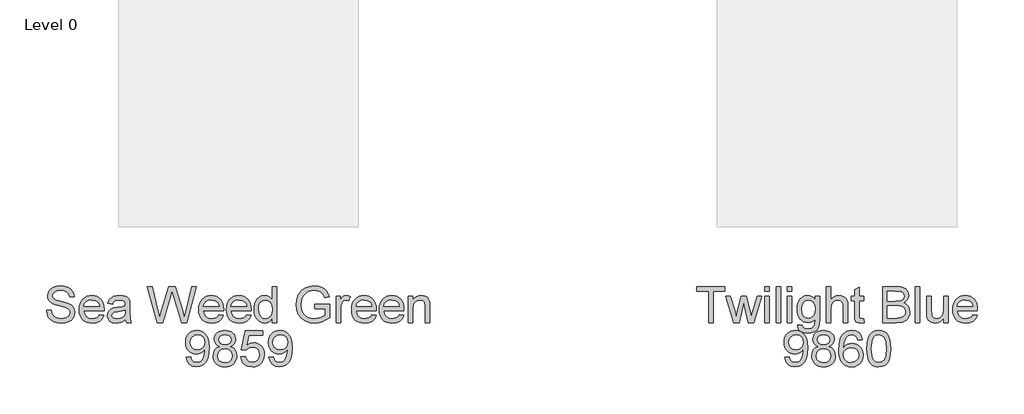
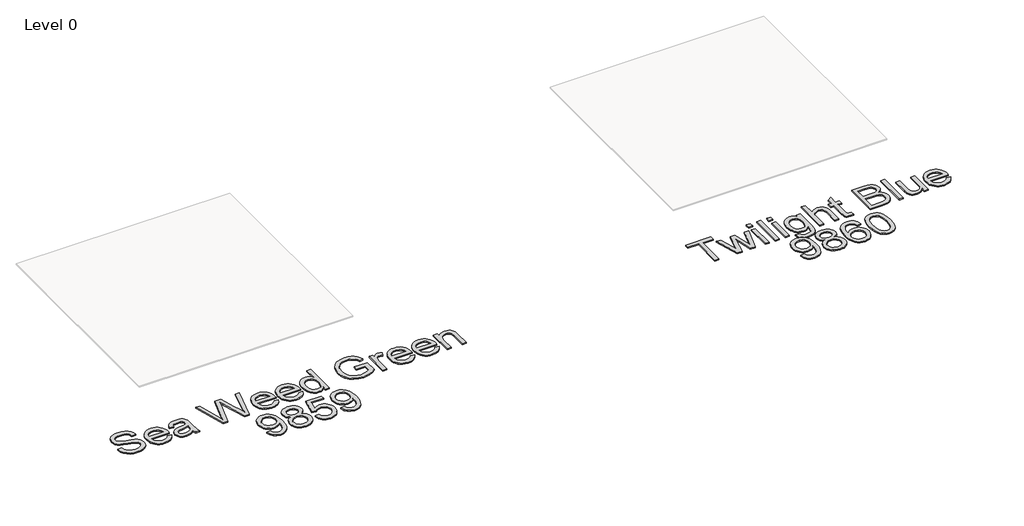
# One storey, part 5 of 8: 2 proxies.
"""IFC4 building model written with IfcOpenShell, lengths in millimetres."""

from ifc_helpers import new_model, si_unit, origin, origin_with_axes, place, context, project, spatial, polyline, outline, extrude, element, save

model = new_model("IFC4")

# Units and contexts
model_context = context("Model", 3, world=origin())
ifc_project = project(units=[si_unit("LENGTHUNIT", "METRE", prefix="MILLI")], contexts=[model_context])

# Site, building, storey
site = spatial("IfcSite", under=ifc_project)
building = spatial("IfcBuilding", under=site)
storey = spatial("IfcBuildingStorey", under=building, Name="Level 0", Elevation=0.0)

# Proxies
placement = place(None, origin())
element("IfcBuildingElementProxy", 1, Name="300mm Arial", ObjectType="300mm Arial", at=placement, inside=storey, context=model_context, shape_type="SweptSolid", body=[
    extrude(outline(polyline([(9475.715129, -12002.860494), (9475.715129, -11739.1626798), (9376.8284487, -11739.1626798), (9376.8284487, -11701.4915635), (9612.2729256, -11701.4915635), (9612.2729256, -11739.1626798), (9513.3862453, -11739.1626798), (9513.3862453, -12002.860494), (9475.715129, -12002.860494)])), origin_with_axes(), (0.0, 0.0, 1.0), 10.0),
    extrude(outline(polyline([(9686.658665, -12002.860494), (9619.3362599, -11781.5426857), (9658.4789042, -11781.5426857), (9696.6650553, -11910.669266), (9708.0693971, -11956.8016682), (9717.4135998, -11912.3615232), (9747.8006526, -11781.5426857), (9792.682256, -11781.5426857), (9822.922156, -11911.9936412), (9831.2362891, -11952.2399314), (9843.1556658, -11909.7863492), (9881.4153932, -11781.5426857), (9920.7051903, -11781.5426857), (9852.8677504, -12002.860494), (9807.3239594, -12002.860494), (9778.4084346, -11873.0717261), (9770.0207251, -11832.6047066), (9732.7174908, -12002.860494), (9686.658665, -12002.860494)])), origin_with_axes(), (0.0, 0.0, 1.0), 10.0),
    extrude(outline(polyline([(9946.6040828, -11739.1626798), (9946.6040828, -11701.4915635), (9984.2751991, -11701.4915635), (9984.2751991, -11739.1626798), (9946.6040828, -11739.1626798)])), origin_with_axes(), (0.0, 0.0, 1.0), 10.0),
    extrude(outline(polyline([(9946.6040828, -12002.860494), (9946.6040828, -11781.5426857), (9984.2751991, -11781.5426857), (9984.2751991, -12002.860494), (9946.6040828, -12002.860494)])), origin_with_axes(), (0.0, 0.0, 1.0), 10.0),
    extrude(outline(polyline([(10040.7818736, -12002.860494), (10040.7818736, -11701.4915635), (10078.4529899, -11701.4915635), (10078.4529899, -12002.860494), (10040.7818736, -12002.860494)])), origin_with_axes(), (0.0, 0.0, 1.0), 10.0),
    extrude(outline(polyline([(10134.9596643, -11739.1626798), (10134.9596643, -11701.4915635), (10172.6307806, -11701.4915635), (10172.6307806, -11739.1626798), (10134.9596643, -11739.1626798)])), origin_with_axes(), (0.0, 0.0, 1.0), 10.0),
    extrude(outline(polyline([(10134.9596643, -12002.860494), (10134.9596643, -11781.5426857), (10172.6307806, -11781.5426857), (10172.6307806, -12002.860494), (10134.9596643, -12002.860494)])), origin_with_axes(), (0.0, 0.0, 1.0), 10.0),
    extrude(outline(polyline([(10219.719676, -12021.6960521), (10257.3907923, -12026.4049417), (10261.5478589, -12038.1771655), (10269.6044746, -12046.2705694), (10285.4417945, -12052.5613515), (10306.1719449, -12054.6582789), (10328.2816528, -12052.28544), (10344.725978, -12045.1669234), (10356.1303198, -12033.7625816), (10363.1200777, -12018.532267), (10365.6952517, -11974.6071568), (10353.1596727, -11986.9679918), (10339.1709598, -11995.7971597), (10323.7291131, -12001.0946604), (10306.8341325, -12002.860494), (10286.1798577, -12000.8049533), (10267.9949908, -11994.6383314), (10252.2795318, -11984.3606281), (10239.0334808, -11969.9718436), (10228.523552, -11952.708981), (10221.01646, -11933.8090435), (10216.5122049, -11913.2720311), (10215.0107865, -11891.0979438), (10217.7055221, -11860.6832999), (10225.7897289, -11832.7150712), (10238.9782985, -11809.0142737), (10256.9861221, -11791.4019232), (10279.1969976, -11780.4758279), (10304.9947225, -11776.8337961), (10322.6116715, -11778.8939353), (10338.6007428, -11785.0743528), (10352.9619361, -11795.3750487), (10365.6952517, -11809.7960229), (10365.6952517, -11781.5426857), (10403.366368, -11781.5426857), (10403.366368, -11972.620594), (10400.791194, -12016.7388422), (10393.0656721, -12045.7923228), (10379.757541, -12065.0601423), (10360.4345392, -12079.8214074), (10335.519731, -12089.2023982), (10305.4361809, -12092.3293952), (10270.3862238, -12087.9240083), (10242.7858771, -12074.7078476), (10232.3909115, -12064.7865301), (10225.0815561, -12052.644125), (10220.8578109, -12038.2806323), (10219.719676, -12021.6960521)]), holes=[polyline([(10252.6819028, -11888.5227699), (10256.7010136, -11923.0760863), (10268.758346, -11946.8320661), (10286.8857313, -11960.6000498), (10309.1150008, -11965.1893777), (10331.1787235, -11960.6276409), (10349.3980793, -11946.9424307), (10361.6209586, -11923.4899535), (10365.6952517, -11889.6264159), (10361.501397, -11856.9676917), (10348.9198327, -11833.4508352), (10330.4337625, -11819.2413931), (10308.5263896, -11814.5049125), (10287.01449, -11819.1678167), (10268.9790752, -11833.1565296), (10256.7561959, -11856.3238983), (10252.6819028, -11888.5227699)])]), origin_with_axes(), (0.0, 0.0, 1.0), 10.0),
    extrude(outline(polyline([(10459.8730425, -12002.860494), (10459.8730425, -11701.4915635), (10497.5441588, -11701.4915635), (10497.5441588, -11812.2976205), (10511.3811203, -11796.7821973), (10526.9195361, -11785.6997522), (10544.1594061, -11779.0502852), (10563.1007303, -11776.8337961), (10585.8542317, -11779.2526203), (10605.4071598, -11786.5090926), (10620.8030213, -11798.0329961), (10631.085323, -11813.2541137), (10636.8794644, -11834.1682051), (10638.8108449, -11862.7710302), (10638.8108449, -12002.860494), (10601.1397286, -12002.860494), (10601.1397286, -11866.6705794), (10598.1414904, -11843.0893435), (10589.1467756, -11826.9393239), (10574.652225, -11817.6135153), (10555.1544792, -11814.5049125), (10539.2343859, -11816.6018398), (10524.2891798, -11822.8926219), (10511.9099507, -11832.7702535), (10503.6877881, -11845.6277292), (10499.0800661, -11862.7158479), (10497.5441588, -11885.2854083), (10497.5441588, -12002.860494), (10459.8730425, -12002.860494)])), origin_with_axes(), (0.0, 0.0, 1.0), 10.0),
    extrude(outline(polyline([(10770.659752, -11971.4433716), (10775.3686415, -12003.96414), (10747.1888807, -12007.5693835), (10729.1074806, -12006.005885), (10715.6246055, -12001.3153896), (10706.0964618, -11994.0865084), (10699.8792561, -11984.9078526), (10696.4579536, -11969.1441091), (10695.3175194, -11942.1599648), (10695.3175194, -11819.213802), (10667.0641821, -11819.213802), (10667.0641821, -11781.5426857), (10695.3175194, -11781.5426857), (10695.3175194, -11727.758338), (10732.9886357, -11705.6118419), (10732.9886357, -11781.5426857), (10770.659752, -11781.5426857), (10770.659752, -11819.213802), (10732.9886357, -11819.213802), (10732.9886357, -11941.0563188), (10734.9751985, -11960.4804881), (10741.4131334, -11967.3598814), (10754.252215, -11969.8982672), (10770.659752, -11971.4433716)])), origin_with_axes(), (0.0, 0.0, 1.0), 10.0),
    extrude(outline(polyline([(10930.7619963, -12002.860494), (10930.7619963, -11701.4915635), (11045.761908, -11701.4915635), (11077.3905625, -11703.7080526), (11102.0846414, -11710.3575196), (11121.0121701, -11721.6055116), (11135.3411738, -11737.6175755), (11144.3634797, -11756.4531336), (11147.3709151, -11776.1716086), (11144.8417263, -11794.317388), (11137.2541602, -11811.3779155), (11124.5530343, -11826.3047274), (11106.6831664, -11838.0493601), (11128.0295192, -11849.1961846), (11143.8024597, -11866.1555446), (11153.5421355, -11887.8054), (11156.7886941, -11913.0237108), (11154.5722051, -11934.0389697), (11147.922738, -11953.5275184), (11137.9991212, -11970.1006023), (11125.9601829, -11982.3694669), (11111.217312, -11991.253817), (11093.1818972, -11997.6733578), (11044.8789912, -12002.860494), (10930.7619963, -12002.860494)]), holes=[polyline([(10968.4331126, -11965.1893777), (11045.6883316, -11965.1893777), (11073.6473632, -11963.7178497), (11097.3021755, -11955.5140812), (11112.9739485, -11938.7754504), (11117.5816705, -11926.9480443), (11119.1175778, -11913.3915928), (11117.314956, -11897.6462434), (11111.9070907, -11884.1081859), (11102.4617205, -11873.5223815), (11088.546584, -11866.6337912), (11068.8373061, -11862.8538037), (11042.0095116, -11861.5938078), (10968.4331126, -11861.5938078), (10968.4331126, -11965.1893777)]), polyline([(10968.4331126, -11823.9226915), (11037.2270457, -11823.9226915), (11077.3997596, -11820.68533), (11091.4620488, -11815.1027207), (11101.5696067, -11806.7426024), (11107.6672507, -11795.7337336), (11109.6997987, -11782.2048733), (11107.8052065, -11769.071486), (11102.1214296, -11757.630356), (11092.9059857, -11748.7000206), (11080.4163919, -11743.0990172), (11032.0031214, -11739.1626798), (10968.4331126, -11739.1626798), (10968.4331126, -11823.9226915)])]), origin_with_axes(), (0.0, 0.0, 1.0), 10.0),
    extrude(outline(polyline([(11203.8775895, -12002.860494), (11203.8775895, -11701.4915635), (11241.5487058, -11701.4915635), (11241.5487058, -12002.860494), (11203.8775895, -12002.860494)])), origin_with_axes(), (0.0, 0.0, 1.0), 10.0),
    extrude(outline(polyline([(11439.3220664, -12002.860494), (11439.3220664, -11964.8214957), (11425.6920385, -11983.5236966), (11409.8179304, -11996.8824116), (11391.6997421, -12004.8976405), (11371.3374737, -12007.5693835), (11352.9893592, -12005.6931853), (11335.9104376, -12000.0645908), (11321.5814339, -11991.6033049), (11311.4830731, -11981.2290327), (11300.2626722, -11953.4907302), (11298.0553803, -11918.4683643), (11298.0553803, -11781.5426857), (11335.7264966, -11781.5426857), (11335.7264966, -11900.7364521), (11338.007365, -11939.1433324), (11343.4980037, -11951.9548229), (11352.9065858, -11961.6944987), (11365.6077116, -11967.8473251), (11380.975982, -11969.8982672), (11397.2271691, -11967.8013398), (11412.4298926, -11961.5105577), (11424.9654716, -11951.605335), (11433.2152253, -11938.6650858), (11437.7953561, -11920.9423707), (11439.3220664, -11896.6897502), (11439.3220664, -11781.5426857), (11476.9931827, -11781.5426857), (11476.9931827, -12002.860494), (11439.3220664, -12002.860494)])), origin_with_axes(), (0.0, 0.0, 1.0), 10.0),
    extrude(outline(polyline([(11683.742864, -11936.9360404), (11720.6782163, -11941.64493), (11707.3700852, -11969.4752029), (11686.134097, -11990.2789297), (11657.4484984, -12003.2467701), (11621.791536, -12007.5693835), (11598.4172338, -12005.7046817), (11577.5905143, -12000.1105761), (11559.3113777, -11990.7870668), (11543.5798239, -11977.7341537), (11530.9292817, -11961.3151204), (11521.8931802, -11941.8932503), (11516.4715193, -11919.4685435), (11514.664299, -11894.0409998), (11516.4899134, -11867.7512327), (11521.9667566, -11844.5792656), (11531.0948286, -11824.5250983), (11543.8741295, -11807.5887309), (11559.5642965, -11794.133447), (11577.4249674, -11784.5225298), (11597.4561421, -11778.7559796), (11619.6578205, -11776.8337961), (11641.1444282, -11778.751381), (11660.5754954, -11784.5041357), (11677.9510219, -11794.0920602), (11693.2710077, -11807.5151545), (11705.7766963, -11824.4147337), (11714.709331, -11844.4321128), (11720.0689118, -11867.5672917), (11721.8554387, -11893.8202706), (11721.6347095, -11903.9738137), (11552.3354153, -11903.9738137), (11558.8561237, -11932.1719686), (11574.0036649, -11952.902119), (11595.8650524, -11965.6492302), (11622.5273, -11969.8982672), (11642.5768688, -11967.9300985), (11659.4626523, -11962.0255925), (11673.1846508, -11951.8168672), (11683.742864, -11936.9360404)]), holes=[polyline([(11552.3354153, -11866.3026974), (11684.1843224, -11866.3026974), (11679.0891568, -11846.4002814), (11669.1011606, -11832.1632482), (11647.1386055, -11818.9194964), (11619.5106677, -11814.5049125), (11594.1176129, -11818.0273826), (11573.1207481, -11828.5947929), (11558.5250299, -11845.0667092), (11552.3354153, -11866.3026974)])]), origin_with_axes(), (0.0, 0.0, 1.0), 10.0),
    extrude(outline(polyline([(10111.4152166, -12293.4427149), (10149.0863329, -12288.7338254), (10155.5242679, -12310.1169663), (10166.0089047, -12324.6758963), (10180.2827261, -12333.0360146), (10198.0882147, -12335.8227207), (10214.0634903, -12334.029296), (10228.5856321, -12328.6490218), (10240.6521615, -12320.2705094), (10249.2606002, -12309.4823699), (10261.5846471, -12276.7408723), (10267.0293006, -12233.0364913), (10266.8085714, -12225.6788514), (10253.7579576, -12241.6081418), (10236.679036, -12254.2264942), (10216.8042112, -12262.4486568), (10195.3658879, -12265.1893777), (10177.4707281, -12263.5155146), (10161.0149066, -12258.4939254), (10145.9984234, -12250.12461), (10132.4212786, -12238.4075684), (10121.1709873, -12223.9544045), (10113.135065, -12207.3767221), (10108.3135116, -12188.6745212), (10106.7063271, -12167.8478018), (10108.3916865, -12146.326705), (10113.4477647, -12127.0129003), (10121.8745616, -12109.9063875), (10133.6720773, -12095.0071667), (10148.0079788, -12082.9360387), (10164.0499331, -12074.3138045), (10181.7979401, -12069.1404639), (10201.2519999, -12067.4160171), (10229.3489872, -12071.3523544), (10254.925983, -12083.1613665), (10276.318321, -12102.254442), (10291.8613353, -12128.0429699), (10301.3250996, -12163.6907352), (10304.4796877, -12212.3615232), (10301.3342966, -12263.96617), (10291.8981235, -12303.8537754), (10276.2539416, -12333.8269609), (10254.4845246, -12355.6883485), (10227.5279714, -12369.0424649), (10196.3223811, -12373.4938371), (10164.1143124, -12368.2423216), (10138.4177551, -12352.4877751), (10120.4467196, -12327.2234791), (10111.4152166, -12293.4427149)]), holes=[polyline([(10266.8085714, -12166.964885), (10262.7434754, -12141.4338745), (10250.5481872, -12121.788976), (10231.6206586, -12109.262594), (10207.358841, -12105.0871334), (10182.1957125, -12109.5844908), (10162.0357792, -12123.0765629), (10148.7920273, -12143.7239399), (10144.3774434, -12169.6872117), (10148.552904, -12192.964945), (10161.079286, -12211.4418182), (10180.7425786, -12223.4991506), (10206.3287714, -12227.5182614), (10230.3974509, -12223.4991506), (10249.775635, -12211.4418182), (10262.5503373, -12192.2843633), (10266.8085714, -12166.964885)])]), origin_with_axes(), (0.0, 0.0, 1.0), 10.0),
    extrude(outline(polyline([(10392.3299082, -12202.7965913), (10372.1607778, -12192.8637774), (10358.006518, -12179.3992964), (10349.6463997, -12162.6790597), (10346.8596935, -12142.9789789), (10348.3772068, -12127.6153071), (10352.9297465, -12113.5300252), (10360.5173126, -12100.7231332), (10371.1399052, -12089.1946312), (10384.287088, -12079.6664875), (10399.4484248, -12072.8606706), (10435.81356, -12067.4160171), (10472.3994244, -12072.9894293), (10487.726308, -12079.9561946), (10501.0758259, -12089.709666), (10511.8915566, -12101.4634957), (10519.6170785, -12114.4313361), (10524.2523916, -12128.613187), (10525.797496, -12144.0090485), (10523.0475781, -12163.0745329), (10514.7978243, -12179.509661), (10500.9562643, -12192.8913686), (10481.4309274, -12202.7965913), (10504.6166901, -12214.7435591), (10521.4932767, -12232.3375155), (10531.7847755, -12254.732332), (10535.2152751, -12281.0818799), (10533.5138209, -12299.8714528), (10528.4094582, -12317.0975272), (10519.902187, -12332.7601031), (10507.9920074, -12346.8591806), (10493.3043188, -12358.5118428), (10476.4645204, -12366.8351729), (10457.4726124, -12371.829171), (10436.3285948, -12373.4938371), (10415.1845771, -12371.8222732), (10396.1926691, -12366.8075818), (10379.3528708, -12358.4497627), (10364.6651821, -12346.748816), (10352.7550025, -12332.5508703), (10344.2477314, -12316.7020541), (10339.1433687, -12299.2023674), (10337.4419145, -12280.0518103), (10341.0103698, -12252.6813898), (10351.7157359, -12230.1670117), (10369.0061897, -12213.2812282), (10392.3299082, -12202.7965913)]), holes=[polyline([(10375.1130308, -12278.7274351), (10381.4038129, -12307.0911369), (10390.1134191, -12319.2588339), (10403.6606736, -12328.317928), (10419.8842696, -12333.9465226), (10436.6229004, -12335.8227207), (10462.2642754, -12331.8771864), (10481.5045038, -12320.0405832), (10493.534245, -12302.1155329), (10497.5441588, -12279.9046575), (10493.4054863, -12257.316703), (10480.989469, -12238.9961796), (10461.3077822, -12226.8560738), (10435.3721016, -12222.8093718), (10410.0894115, -12226.8008915), (10391.0423212, -12238.7754504), (10379.0953534, -12256.7464859), (10375.1130308, -12278.7274351)]), polyline([(10384.5308099, -12144.0826249), (10387.869339, -12160.52695), (10397.8849263, -12173.6603373), (10414.2832662, -12182.268776), (10436.7700532, -12185.1382555), (10458.7326083, -12182.2871701), (10474.8826279, -12173.7339137), (10484.8154417, -12161.0419848), (10488.1263797, -12145.774882), (10484.7050771, -12129.9283651), (10474.4411695, -12116.822569), (10458.0704207, -12108.0209923), (10436.3285948, -12105.0871334), (10414.4488131, -12107.9566129), (10398.1056555, -12116.5650516), (10387.9245213, -12129.1834041), (10384.5308099, -12144.0826249)])]), origin_with_axes(), (0.0, 0.0, 1.0), 10.0),
    extrude(outline(polyline([(10761.2419729, -12147.4671392), (10723.5708566, -12152.1760288), (10717.5008037, -12133.5060175), (10709.2970352, -12120.7589064), (10692.2089165, -12109.0050766), (10671.5523425, -12105.0871334), (10654.0411595, -12107.3680017), (10637.5600461, -12114.2106069), (10623.4057864, -12128.622384), (10611.8450947, -12148.4604206), (10604.0367993, -12176.5206198), (10601.1397286, -12215.5988847), (10616.2504816, -12197.9681401), (10634.3594728, -12185.5429257), (10654.4550268, -12178.1760888), (10675.525468, -12175.7204764), (10693.6252622, -12177.3989381), (10710.3271048, -12182.4343229), (10725.6309958, -12190.8266309), (10739.5369352, -12202.5758621), (10751.0930284, -12216.9830407), (10759.3473806, -12233.349191), (10764.299992, -12251.6743129), (10765.9508625, -12271.9584064), (10762.8422596, -12298.9333537), (10753.516451, -12323.9401323), (10738.7459889, -12345.1485293), (10719.3034255, -12360.7283318), (10696.0716775, -12370.3024607), (10669.9336617, -12373.4938371), (10647.4767652, -12371.3785156), (10627.1949709, -12365.0325512), (10609.088279, -12354.4559438), (10593.1566893, -12339.6486935), (10580.1681556, -12319.9854009), (10570.8906316, -12294.8406665), (10565.3241171, -12264.2144904), (10563.4686123, -12228.1068726), (10565.5287515, -12187.6260575), (10571.709169, -12153.0773396), (10582.0098649, -12124.4607189), (10596.4308391, -12101.7761954), (10612.0612253, -12086.7436174), (10630.1840121, -12076.0060617), (10650.7991994, -12069.5635282), (10673.9067873, -12067.4160171), (10706.9609845, -12072.7319119), (10733.4300941, -12088.6795964), (10751.9713466, -12114.0082718), (10761.2419729, -12147.4671392)]), holes=[polyline([(10601.1397286, -12271.3697952), (10603.3194294, -12288.0624407), (10609.8585319, -12304.0009282), (10620.012075, -12317.7045325), (10633.0350976, -12327.6925287), (10648.7528558, -12333.7901727), (10666.9906058, -12335.8227207), (10691.8502316, -12331.6104719), (10711.3939626, -12318.9737254), (10724.0583003, -12299.1080976), (10728.2797461, -12273.2092052), (10724.1134826, -12248.3495793), (10711.6146918, -12229.3944595), (10691.739867, -12217.3923095), (10665.4455014, -12213.3915928), (10640.6226637, -12217.3923095), (10619.8649222, -12229.3944595), (10605.821027, -12247.8897269), (10601.1397286, -12271.3697952)])]), origin_with_axes(), (0.0, 0.0, 1.0), 10.0),
    extrude(outline(polyline([(10798.9130892, -12220.5285035), (10801.6814012, -12172.2899768), (10809.9863373, -12133.8187172), (10823.7451239, -12104.5261133), (10842.8749876, -12083.8235541), (10867.5138843, -12071.5179013), (10897.7997695, -12067.4160171), (10921.0131234, -12069.8440382), (10941.7984561, -12077.1281017), (10959.1808804, -12088.983099), (10972.1855089, -12105.1239216), (10982.0079582, -12125.4126136), (10989.8438447, -12149.7112194), (10994.9757986, -12180.5673217), (10996.6864498, -12220.5285035), (10993.945729, -12268.4911186), (10985.7235664, -12306.8704077), (10972.0475532, -12336.1906027), (10952.9452806, -12356.9759355), (10928.2512017, -12369.3643617), (10897.7997695, -12373.4938371), (10877.051225, -12371.7004123), (10858.6571252, -12366.3201381), (10842.6174702, -12357.3530145), (10828.93226, -12344.7990414), (10815.7988728, -12322.1053209), (10806.4178819, -12293.828991), (10800.7892874, -12259.9700519), (10798.9130892, -12220.5285035)]), holes=[polyline([(10836.5842055, -12220.4549271), (10840.9987895, -12279.7115194), (10846.5170194, -12299.9795181), (10854.2425413, -12314.0073184), (10873.9610162, -12330.3688702), (10897.7997695, -12335.8227207), (10921.6385228, -12330.3504761), (10941.3569978, -12313.933742), (10949.0825197, -12299.8829491), (10954.6007496, -12279.6195489), (10959.0153335, -12220.4549271), (10954.7479024, -12162.5319069), (10949.4136134, -12142.3305869), (10941.9456089, -12127.9693935), (10922.2639222, -12110.8076984), (10897.3583111, -12105.0871334), (10873.7770752, -12110.1271167), (10854.8311525, -12125.2470667), (10846.8481132, -12140.8820515), (10841.1459423, -12161.9616898), (10836.5842055, -12220.4549271)])]), origin_with_axes(), (0.0, 0.0, 1.0), 10.0),
])
element("IfcBuildingElementProxy", 2, Name="300mm Arial", ObjectType="300mm Arial", at=placement, inside=storey, context=model_context, shape_type="SweptSolid", body=[
    extrude(outline(polyline([(3945.9650559, -11899.2649241), (3983.6361722, -11899.2649241), (3987.9587857, -11920.1698185), (3995.7762781, -11936.9728286), (4007.9715662, -11950.308551), (4025.4275669, -11960.8115819), (4046.7647226, -11967.6265959), (4070.6034759, -11969.8982672), (4091.5911437, -11968.1784189), (4109.9668494, -11963.0188739), (4124.8568731, -11954.8518936), (4135.3874952, -11944.1097394), (4141.6506862, -11931.7764955), (4143.7384165, -11918.8362463), (4142.174918, -11906.2270909), (4137.4844226, -11895.3285868), (4127.9562789, -11886.0303694), (4111.8798357, -11878.222074), (4057.0286303, -11863.837888), (4021.02218, -11854.3189414), (3997.98357, -11845.2598472), (3979.2307853, -11832.5863125), (3965.9410483, -11817.2272392), (3958.0223883, -11799.5137211), (3955.382835, -11779.7768521), (3958.6477877, -11757.7131294), (3968.4426458, -11737.1393289), (3984.509892, -11719.7017223), (4006.5920087, -11707.0465817), (4033.0979065, -11699.3486509), (4062.4364956, -11696.782674), (4094.2215, -11699.4682126), (4122.0333788, -11707.5248283), (4144.8788507, -11720.7869742), (4161.7646343, -11739.0891034), (4172.4516062, -11761.2907818), (4176.7006433, -11786.2515752), (4139.029527, -11786.2515752), (4132.1133455, -11763.7739853), (4117.6923713, -11747.5503893), (4095.1595991, -11737.7279401), (4063.9080236, -11734.4537903), (4031.9206841, -11737.6911519), (4009.9765231, -11747.4032365), (3997.2845942, -11761.695452), (3993.0539513, -11778.6732061), (3996.0521896, -11793.1493626), (4005.0469043, -11804.7928278), (4026.3104837, -11815.2038882), (4066.5567739, -11825.8356779), (4108.0906512, -11835.9340387), (4133.2169915, -11844.7448125), (4154.6921029, -11858.4116286), (4169.6740972, -11875.2790181), (4178.4756739, -11895.1630399), (4181.4095328, -11917.8797531), (4178.0342155, -11941.102304), (4167.9082636, -11962.9452975), (4151.4455443, -11981.7440675), (4129.0599249, -11995.8339479), (4102.1401599, -12004.6355246), (4072.0750039, -12007.5693835), (4035.1672427, -12004.4055984), (4004.7893869, -11994.9142429), (3980.5919487, -11979.0585289), (3962.2254401, -11956.8016682), (3950.4348222, -11929.6887651), (3945.9650559, -11899.2649241)])), origin_with_axes(), (0.0, 0.0, 1.0), 10.0),
    extrude(outline(polyline([(4388.1592141, -11936.9360404), (4425.0945664, -11941.64493), (4411.7864353, -11969.4752029), (4390.5504471, -11990.2789297), (4361.8648485, -12003.2467701), (4326.2078861, -12007.5693835), (4302.8335839, -12005.7046817), (4282.0068644, -12000.1105761), (4263.7277278, -11990.7870668), (4247.996174, -11977.7341537), (4235.3456318, -11961.3151204), (4226.3095303, -11941.8932503), (4220.8878694, -11919.4685435), (4219.0806491, -11894.0409998), (4220.9062635, -11867.7512327), (4226.3831067, -11844.5792656), (4235.5111787, -11824.5250983), (4248.2904796, -11807.5887309), (4263.9806466, -11794.133447), (4281.8413175, -11784.5225298), (4301.8724921, -11778.7559796), (4324.0741706, -11776.8337961), (4345.5607783, -11778.751381), (4364.9918455, -11784.5041357), (4382.367372, -11794.0920602), (4397.6873578, -11807.5151545), (4410.1930464, -11824.4147337), (4419.1256811, -11844.4321128), (4424.4852619, -11867.5672917), (4426.2717888, -11893.8202706), (4426.0510596, -11903.9738137), (4256.7517654, -11903.9738137), (4263.2724738, -11932.1719686), (4278.420015, -11952.902119), (4300.2814025, -11965.6492302), (4326.9436501, -11969.8982672), (4346.9932189, -11967.9300985), (4363.8790024, -11962.0255925), (4377.6010009, -11951.8168672), (4388.1592141, -11936.9360404)]), holes=[polyline([(4256.7517654, -11866.3026974), (4388.6006725, -11866.3026974), (4383.5055069, -11846.4002814), (4373.5175107, -11832.1632482), (4351.5549556, -11818.9194964), (4323.9270178, -11814.5049125), (4298.533963, -11818.0273826), (4277.5370982, -11828.5947929), (4262.94138, -11845.0667092), (4256.7517654, -11866.3026974)])]), origin_with_axes(), (0.0, 0.0, 1.0), 10.0),
    extrude(outline(polyline([(4605.2095913, -11974.6071568), (4587.2109647, -11990.0398064), (4568.6789091, -12000.1381672), (4549.1903605, -12005.7115794), (4528.3222543, -12007.5693835), (4496.8407525, -12003.0996173), (4473.6182016, -11989.6903186), (4459.2983949, -11969.3280501), (4454.525126, -11943.9993748), (4456.3277478, -11928.3827841), (4461.7356132, -11914.2009331), (4470.0773374, -11902.0608273), (4480.6815359, -11892.5694718), (4507.058675, -11880.2086368), (4539.6530197, -11874.5432541), (4578.1702646, -11868.5835657), (4604.9888621, -11861.5938078), (4605.2095913, -11853.2060983), (4602.6160232, -11836.3938912), (4594.835319, -11825.3942195), (4577.4345006, -11817.2272392), (4553.1910772, -11814.5049125), (4530.7502754, -11816.3167313), (4515.0785025, -11821.7521878), (4504.3915305, -11831.8045633), (4496.9051319, -11847.4671392), (4459.2340156, -11842.7582497), (4465.773118, -11822.156858), (4475.531188, -11805.9700502), (4489.4187333, -11793.590821), (4508.3462619, -11784.4121652), (4531.4952365, -11778.7283884), (4558.0471195, -11776.8337961), (4583.5137506, -11778.5076592), (4603.7012751, -11783.5292485), (4618.9223926, -11791.0800264), (4629.489803, -11800.3414556), (4636.497955, -11811.7917827), (4641.0412976, -11825.9092543), (4642.8807076, -11858.8714811), (4642.8807076, -11905.7396473), (4644.793694, -11971.1858542), (4652.2984867, -12002.860494), (4614.6273703, -12002.860494), (4605.2095913, -11974.6071568)]), holes=[polyline([(4605.2095913, -11899.2649241), (4544.4354857, -11910.8164188), (4512.0250819, -11916.9232599), (4497.3465903, -11926.8560738), (4492.1962424, -11941.3506244), (4495.0013426, -11952.5526311), (4503.4166432, -11961.7312869), (4517.2582033, -11967.8565221), (4536.3420818, -11969.8982672), (4556.5755915, -11967.64499), (4574.4546565, -11960.8851583), (4588.9492071, -11950.9247533), (4599.0291738, -11939.069756), (4603.49894, -11926.8560738), (4604.9888621, -11909.933502), (4605.2095913, -11899.2649241)])]), origin_with_axes(), (0.0, 0.0, 1.0), 10.0),
    extrude(outline(polyline([(4871.041121, -12002.860494), (4788.8562833, -11701.4915635), (4827.704622, -11701.4915635), (4875.3821285, -11899.5592297), (4890.0974083, -11960.7012173), (4905.8427577, -11906.622564), (4965.5867937, -11701.4915635), (5021.5784334, -11701.4915635), (5064.9885088, -11850.189466), (5083.5849437, -11905.3717653), (5097.288548, -11960.7012173), (5111.5623694, -11901.3250633), (5159.6813344, -11701.4915635), (5198.5296731, -11701.4915635), (5116.271259, -12002.860494), (5076.0249687, -12002.860494), (5003.7729448, -11770.359073), (4993.6929782, -11737.9118811), (4982.3622127, -11776.9809489), (4916.5113356, -12002.860494), (4871.041121, -12002.860494)])), origin_with_axes(), (0.0, 0.0, 1.0), 10.0),
    extrude(outline(polyline([(5386.4437962, -11936.9360404), (5423.3791485, -11941.64493), (5410.0710174, -11969.4752029), (5388.8350292, -11990.2789297), (5360.1494306, -12003.2467701), (5324.4924682, -12007.5693835), (5301.118166, -12005.7046817), (5280.2914465, -12000.1105761), (5262.0123099, -11990.7870668), (5246.2807561, -11977.7341537), (5233.630214, -11961.3151204), (5224.5941125, -11941.8932503), (5219.1724515, -11919.4685435), (5217.3652312, -11894.0409998), (5219.1908456, -11867.7512327), (5224.6676888, -11844.5792656), (5233.7957609, -11824.5250983), (5246.5750617, -11807.5887309), (5262.2652288, -11794.133447), (5280.1258996, -11784.5225298), (5300.1570743, -11778.7559796), (5322.3587527, -11776.8337961), (5343.8453604, -11778.751381), (5363.2764276, -11784.5041357), (5380.6519541, -11794.0920602), (5395.9719399, -11807.5151545), (5408.4776285, -11824.4147337), (5417.4102632, -11844.4321128), (5422.769844, -11867.5672917), (5424.5563709, -11893.8202706), (5424.3356417, -11903.9738137), (5255.0363476, -11903.9738137), (5261.5570559, -11932.1719686), (5276.7045971, -11952.902119), (5298.5659846, -11965.6492302), (5325.2282322, -11969.8982672), (5345.277801, -11967.9300985), (5362.1635845, -11962.0255925), (5375.885583, -11951.8168672), (5386.4437962, -11936.9360404)]), holes=[polyline([(5255.0363476, -11866.3026974), (5386.8852546, -11866.3026974), (5381.790089, -11846.4002814), (5371.8020928, -11832.1632482), (5349.8395377, -11818.9194964), (5322.2115999, -11814.5049125), (5296.8185452, -11818.0273826), (5275.8216803, -11828.5947929), (5261.2259621, -11845.0667092), (5255.0363476, -11866.3026974)])]), origin_with_axes(), (0.0, 0.0, 1.0), 10.0),
    extrude(outline(polyline([(5617.1793836, -11936.9360404), (5654.1147359, -11941.64493), (5640.8066047, -11969.4752029), (5619.5706166, -11990.2789297), (5590.885018, -12003.2467701), (5555.2280556, -12007.5693835), (5531.8537533, -12005.7046817), (5511.0270339, -12000.1105761), (5492.7478973, -11990.7870668), (5477.0163434, -11977.7341537), (5464.3658013, -11961.3151204), (5455.3296998, -11941.8932503), (5449.9080389, -11919.4685435), (5448.1008186, -11894.0409998), (5449.926433, -11867.7512327), (5455.4032762, -11844.5792656), (5464.5313482, -11824.5250983), (5477.310649, -11807.5887309), (5493.0008161, -11794.133447), (5510.861487, -11784.5225298), (5530.8926616, -11778.7559796), (5553.09434, -11776.8337961), (5574.5809478, -11778.751381), (5594.012015, -11784.5041357), (5611.3875414, -11794.0920602), (5626.7075273, -11807.5151545), (5639.2132159, -11824.4147337), (5648.1458505, -11844.4321128), (5653.5054314, -11867.5672917), (5655.2919583, -11893.8202706), (5655.0712291, -11903.9738137), (5485.7719349, -11903.9738137), (5492.2926433, -11932.1719686), (5507.4401844, -11952.902119), (5529.301572, -11965.6492302), (5555.9638196, -11969.8982672), (5576.0133883, -11967.9300985), (5592.8991719, -11962.0255925), (5606.6211703, -11951.8168672), (5617.1793836, -11936.9360404)]), holes=[polyline([(5485.7719349, -11866.3026974), (5617.620842, -11866.3026974), (5612.5256764, -11846.4002814), (5602.5376802, -11832.1632482), (5580.5751251, -11818.9194964), (5552.9471872, -11814.5049125), (5527.5541325, -11818.0273826), (5506.5572677, -11828.5947929), (5491.9615495, -11845.0667092), (5485.7719349, -11866.3026974)])]), origin_with_axes(), (0.0, 0.0, 1.0), 10.0),
    extrude(outline(polyline([(5829.5208712, -12002.860494), (5829.5208712, -11967.3230932), (5818.2498866, -11984.9308452), (5804.596866, -11997.507811), (5788.5618096, -12005.0539904), (5770.1447172, -12007.5693835), (5745.7909291, -12003.9273518), (5723.4972802, -11993.0012565), (5704.6249339, -11975.5544529), (5690.5350534, -11952.350296), (5681.7610679, -11924.3268851), (5678.836406, -11892.422319), (5681.5311416, -11860.9132261), (5689.6153485, -11832.4575538), (5703.0798295, -11808.6739828), (5721.9153876, -11791.181194), (5744.6964802, -11780.4206456), (5769.9975644, -11776.8337961), (5788.4284524, -11779.3997731), (5804.7256247, -11787.0977038), (5818.5395937, -11798.8975188), (5829.5208712, -11813.7691485), (5829.5208712, -11701.4915635), (5867.1919875, -11701.4915635), (5867.1919875, -12002.860494), (5829.5208712, -12002.860494)]), holes=[polyline([(5716.5075223, -11892.2751662), (5720.7565593, -11926.350236), (5733.5036705, -11950.5844625), (5752.0265289, -11965.069816), (5773.602808, -11969.8982672), (5795.1698899, -11965.2905452), (5813.2236988, -11951.4673793), (5825.4465781, -11928.1712519), (5829.5208712, -11895.1446458), (5825.3730017, -11859.037028), (5812.9293932, -11834.0026582), (5794.4157318, -11819.3793489), (5772.0577036, -11814.5049125), (5750.2606954, -11819.1862108), (5732.4000245, -11833.230106), (5720.4806478, -11857.3539678), (5716.5075223, -11892.2751662)])]), origin_with_axes(), (0.0, 0.0, 1.0), 10.0),
    extrude(outline(polyline([(6187.3964761, -11885.1382555), (6187.3964761, -11847.4671392), (6309.8276041, -11847.4671392), (6309.8276041, -11960.1126061), (6280.0751478, -11980.8059684), (6249.3845923, -11995.6500069), (6217.8295142, -12004.5895394), (6185.4834898, -12007.5693835), (6143.2230456, -12002.8329028), (6105.0276974, -11988.6234608), (6073.2978753, -11965.437698), (6050.4340093, -11933.7722553), (6036.6108434, -11895.7884393), (6032.0031214, -11853.6475567), (6036.5924493, -11811.2031715), (6050.3604329, -11771.7202364), (6072.7368553, -11738.6016598), (6103.1514992, -11715.2503502), (6140.1972161, -11701.399593), (6182.4668574, -11696.782674), (6213.4977037, -11699.4590155), (6241.401553, -11707.4880401), (6264.9000155, -11720.2903335), (6282.7147011, -11737.2864817), (6295.8940736, -11759.295022), (6305.4865966, -11787.134492), (6270.7585362, -11796.9201531), (6263.0054232, -11777.0637224), (6253.5784471, -11762.0817281), (6241.1072474, -11750.7877509), (6224.2214638, -11741.9953712), (6204.0891217, -11736.3391855), (6181.8782462, -11734.4537903), (6155.8781862, -11736.4863383), (6133.6489166, -11742.5839824), (6115.273211, -11751.9833674), (6100.8338427, -11763.9211381), (6081.4464615, -11792.9470275), (6072.6172936, -11821.3843058), (6069.6742377, -11852.1024524), (6073.2151019, -11888.1272967), (6083.8376945, -11917.7693885), (6101.2201188, -11940.8171955), (6125.0404779, -11957.0591856), (6152.9167361, -11966.6884968), (6182.4668574, -11969.8982672), (6208.5588879, -11967.4794431), (6234.0071249, -11960.2229707), (6256.1076358, -11950.2257775), (6272.1564878, -11939.5847908), (6272.1564878, -11885.1382555), (6187.3964761, -11885.1382555)])), origin_with_axes(), (0.0, 0.0, 1.0), 10.0),
    extrude(outline(polyline([(6366.3342786, -12002.860494), (6366.3342786, -11781.5426857), (6399.2965053, -11781.5426857), (6399.2965053, -11814.2841833), (6411.4733994, -11795.3014723), (6422.6938002, -11784.1178596), (6433.9509893, -11778.654812), (6446.2382479, -11776.8337961), (6465.0002297, -11779.7400639), (6484.056517, -11788.4588672), (6471.4749528, -11822.2304343), (6458.231201, -11816.4362929), (6444.9874492, -11814.5049125), (6433.7394571, -11816.3627165), (6423.6870816, -11821.9361288), (6415.5660866, -11830.8020848), (6410.112236, -11842.5375205), (6405.5321052, -11863.5803706), (6404.0053949, -11886.5362071), (6404.0053949, -12002.860494), (6366.3342786, -12002.860494)])), origin_with_axes(), (0.0, 0.0, 1.0), 10.0),
    extrude(outline(polyline([(6662.5528611, -11936.9360404), (6699.4882134, -11941.64493), (6686.1800822, -11969.4752029), (6664.9440941, -11990.2789297), (6636.2584955, -12003.2467701), (6600.6015331, -12007.5693835), (6577.2272308, -12005.7046817), (6556.4005114, -12000.1105761), (6538.1213748, -11990.7870668), (6522.3898209, -11977.7341537), (6509.7392788, -11961.3151204), (6500.7031773, -11941.8932503), (6495.2815164, -11919.4685435), (6493.4742961, -11894.0409998), (6495.2999105, -11867.7512327), (6500.7767537, -11844.5792656), (6509.9048257, -11824.5250983), (6522.6841265, -11807.5887309), (6538.3742936, -11794.133447), (6556.2349645, -11784.5225298), (6576.2661391, -11778.7559796), (6598.4678175, -11776.8337961), (6619.9544253, -11778.751381), (6639.3854925, -11784.5041357), (6656.7610189, -11794.0920602), (6672.0810048, -11807.5151545), (6684.5866933, -11824.4147337), (6693.519328, -11844.4321128), (6698.8789089, -11867.5672917), (6700.6654358, -11893.8202706), (6700.4447066, -11903.9738137), (6531.1454124, -11903.9738137), (6537.6661208, -11932.1719686), (6552.8136619, -11952.902119), (6574.6750495, -11965.6492302), (6601.3372971, -11969.8982672), (6621.3868658, -11967.9300985), (6638.2726494, -11962.0255925), (6651.9946478, -11951.8168672), (6662.5528611, -11936.9360404)]), holes=[polyline([(6531.1454124, -11866.3026974), (6662.9943195, -11866.3026974), (6657.8991539, -11846.4002814), (6647.9111577, -11832.1632482), (6625.9486026, -11818.9194964), (6598.3206647, -11814.5049125), (6572.92761, -11818.0273826), (6551.9307451, -11828.5947929), (6537.335027, -11845.0667092), (6531.1454124, -11866.3026974)])]), origin_with_axes(), (0.0, 0.0, 1.0), 10.0),
    extrude(outline(polyline([(6893.2884485, -11936.9360404), (6930.2238008, -11941.64493), (6916.9156696, -11969.4752029), (6895.6796814, -11990.2789297), (6866.9940829, -12003.2467701), (6831.3371205, -12007.5693835), (6807.9628182, -12005.7046817), (6787.1360988, -12000.1105761), (6768.8569621, -11990.7870668), (6753.1254083, -11977.7341537), (6740.4748662, -11961.3151204), (6731.4387647, -11941.8932503), (6726.0171038, -11919.4685435), (6724.2098835, -11894.0409998), (6726.0354979, -11867.7512327), (6731.5123411, -11844.5792656), (6740.6404131, -11824.5250983), (6753.4197139, -11807.5887309), (6769.109881, -11794.133447), (6786.9705519, -11784.5225298), (6807.0017265, -11778.7559796), (6829.2034049, -11776.8337961), (6850.6900127, -11778.751381), (6870.1210798, -11784.5041357), (6887.4966063, -11794.0920602), (6902.8165921, -11807.5151545), (6915.3222807, -11824.4147337), (6924.2549154, -11844.4321128), (6929.6144962, -11867.5672917), (6931.4010232, -11893.8202706), (6931.180294, -11903.9738137), (6761.8809998, -11903.9738137), (6768.4017082, -11932.1719686), (6783.5492493, -11952.902119), (6805.4106369, -11965.6492302), (6832.0728845, -11969.8982672), (6852.1224532, -11967.9300985), (6869.0082368, -11962.0255925), (6882.7302352, -11951.8168672), (6893.2884485, -11936.9360404)]), holes=[polyline([(6761.8809998, -11866.3026974), (6893.7299069, -11866.3026974), (6888.6347412, -11846.4002814), (6878.6467451, -11832.1632482), (6856.68419, -11818.9194964), (6829.0562521, -11814.5049125), (6803.6631974, -11818.0273826), (6782.6663325, -11828.5947929), (6768.0706144, -11845.0667092), (6761.8809998, -11866.3026974)])]), origin_with_axes(), (0.0, 0.0, 1.0), 10.0),
    extrude(outline(polyline([(6969.0721395, -12002.860494), (6969.0721395, -11781.5426857), (7006.7432558, -11781.5426857), (7006.7432558, -11812.4447733), (7019.8306578, -11796.8649708), (7035.548416, -11785.7365404), (7053.8965305, -11779.0594822), (7074.8750013, -11776.8337961), (7093.443845, -11778.6272209), (7110.4491902, -11784.0074951), (7124.6310411, -11792.303234), (7134.7294019, -11802.8430532), (7146.0233792, -11830.5445674), (7148.0099419, -11866.964885), (7148.0099419, -12002.860494), (7110.3388256, -12002.860494), (7110.3388256, -11872.0416565), (7105.9978181, -11838.7115477), (7099.9921445, -11828.7879309), (7090.6571389, -11821.0900002), (7078.691777, -11816.1511844), (7064.7950346, -11814.5049125), (7042.731312, -11818.2021265), (7023.923345, -11829.2937687), (7016.4070559, -11838.3482643), (7011.0382781, -11850.7228949), (7006.7432558, -11885.4325611), (7006.7432558, -12002.860494), (6969.0721395, -12002.860494)])), origin_with_axes(), (0.0, 0.0, 1.0), 10.0),
    extrude(outline(polyline([(5111.4152166, -12293.4427149), (5149.0863329, -12288.7338254), (5155.5242679, -12310.1169663), (5166.0089047, -12324.6758963), (5180.2827261, -12333.0360146), (5198.0882147, -12335.8227207), (5214.0634903, -12334.029296), (5228.5856321, -12328.6490218), (5240.6521615, -12320.2705094), (5249.2606002, -12309.4823699), (5261.5846471, -12276.7408723), (5267.0293006, -12233.0364913), (5266.8085714, -12225.6788514), (5253.7579576, -12241.6081418), (5236.679036, -12254.2264942), (5216.8042112, -12262.4486568), (5195.3658879, -12265.1893777), (5177.4707281, -12263.5155146), (5161.0149066, -12258.4939254), (5145.9984234, -12250.12461), (5132.4212786, -12238.4075684), (5121.1709873, -12223.9544045), (5113.135065, -12207.3767221), (5108.3135116, -12188.6745212), (5106.7063271, -12167.8478018), (5108.3916865, -12146.326705), (5113.4477647, -12127.0129003), (5121.8745616, -12109.9063875), (5133.6720773, -12095.0071667), (5148.0079788, -12082.9360387), (5164.0499331, -12074.3138045), (5181.7979401, -12069.1404639), (5201.2519999, -12067.4160171), (5229.3489872, -12071.3523544), (5254.925983, -12083.1613665), (5276.318321, -12102.254442), (5291.8613353, -12128.0429699), (5301.3250996, -12163.6907352), (5304.4796877, -12212.3615232), (5301.3342966, -12263.96617), (5291.8981235, -12303.8537754), (5276.2539416, -12333.8269609), (5254.4845246, -12355.6883485), (5227.5279714, -12369.0424649), (5196.3223811, -12373.4938371), (5164.1143124, -12368.2423216), (5138.4177551, -12352.4877751), (5120.4467196, -12327.2234791), (5111.4152166, -12293.4427149)]), holes=[polyline([(5266.8085714, -12166.964885), (5262.7434754, -12141.4338745), (5250.5481872, -12121.788976), (5231.6206586, -12109.262594), (5207.358841, -12105.0871334), (5182.1957125, -12109.5844908), (5162.0357792, -12123.0765629), (5148.7920273, -12143.7239399), (5144.3774434, -12169.6872117), (5148.552904, -12192.964945), (5161.079286, -12211.4418182), (5180.7425786, -12223.4991506), (5206.3287714, -12227.5182614), (5230.3974509, -12223.4991506), (5249.775635, -12211.4418182), (5262.5503373, -12192.2843633), (5266.8085714, -12166.964885)])]), origin_with_axes(), (0.0, 0.0, 1.0), 10.0),
    extrude(outline(polyline([(5392.3299082, -12202.7965913), (5372.1607778, -12192.8637774), (5358.006518, -12179.3992964), (5349.6463997, -12162.6790597), (5346.8596935, -12142.9789789), (5348.3772068, -12127.6153071), (5352.9297465, -12113.5300252), (5360.5173126, -12100.7231332), (5371.1399052, -12089.1946312), (5384.287088, -12079.6664875), (5399.4484248, -12072.8606706), (5435.81356, -12067.4160171), (5472.3994244, -12072.9894293), (5487.726308, -12079.9561946), (5501.0758259, -12089.709666), (5511.8915566, -12101.4634957), (5519.6170785, -12114.4313361), (5524.2523916, -12128.613187), (5525.797496, -12144.0090485), (5523.0475781, -12163.0745329), (5514.7978243, -12179.509661), (5500.9562643, -12192.8913686), (5481.4309274, -12202.7965913), (5504.6166901, -12214.7435591), (5521.4932767, -12232.3375155), (5531.7847755, -12254.732332), (5535.2152751, -12281.0818799), (5533.5138209, -12299.8714528), (5528.4094582, -12317.0975272), (5519.902187, -12332.7601031), (5507.9920074, -12346.8591806), (5493.3043188, -12358.5118428), (5476.4645204, -12366.8351729), (5457.4726124, -12371.829171), (5436.3285948, -12373.4938371), (5415.1845771, -12371.8222732), (5396.1926691, -12366.8075818), (5379.3528708, -12358.4497627), (5364.6651821, -12346.748816), (5352.7550025, -12332.5508703), (5344.2477314, -12316.702054), (5339.1433687, -12299.2023674), (5337.4419145, -12280.0518103), (5341.0103698, -12252.6813898), (5351.7157359, -12230.1670117), (5369.0061897, -12213.2812282), (5392.3299082, -12202.7965913)]), holes=[polyline([(5384.5308099, -12144.0826249), (5387.869339, -12160.52695), (5397.8849263, -12173.6603373), (5414.2832662, -12182.268776), (5436.7700532, -12185.1382555), (5458.7326083, -12182.2871701), (5474.8826279, -12173.7339137), (5484.8154417, -12161.0419848), (5488.1263797, -12145.774882), (5484.7050771, -12129.9283651), (5474.4411695, -12116.822569), (5458.0704207, -12108.0209923), (5436.3285948, -12105.0871334), (5414.4488131, -12107.9566129), (5398.1056555, -12116.5650516), (5387.9245213, -12129.1834041), (5384.5308099, -12144.0826249)]), polyline([(5375.1130308, -12278.7274351), (5381.4038129, -12307.0911369), (5390.1134191, -12319.2588339), (5403.6606736, -12328.317928), (5419.8842696, -12333.9465226), (5436.6229004, -12335.8227207), (5462.2642754, -12331.8771864), (5481.5045038, -12320.0405832), (5493.534245, -12302.1155329), (5497.5441588, -12279.9046575), (5493.4054863, -12257.316703), (5480.989469, -12238.9961796), (5461.3077822, -12226.8560738), (5435.3721016, -12222.8093718), (5410.0894115, -12226.8008915), (5391.0423212, -12238.7754504), (5379.0953534, -12256.7464859), (5375.1130308, -12278.7274351)])]), origin_with_axes(), (0.0, 0.0, 1.0), 10.0),
    extrude(outline(polyline([(5568.1775018, -12288.7338254), (5605.8486182, -12284.0249358), (5612.7647997, -12306.6404815), (5624.8313291, -12322.8364863), (5641.9930242, -12332.5761621), (5664.1947026, -12335.8227207), (5691.197241, -12331.3069693), (5711.4307508, -12317.7597148), (5724.0674973, -12296.7444558), (5728.2797461, -12269.8246908), (5724.3342117, -12244.4776213), (5712.4976086, -12225.0902402), (5692.6779661, -12212.7845875), (5664.7833138, -12208.6827032), (5646.5087757, -12210.3197781), (5631.7107224, -12215.2310027), (5610.5575077, -12232.2271509), (5572.8863914, -12227.5182614), (5605.8486182, -12072.1249066), (5751.8241938, -12072.1249066), (5751.8241938, -12109.7960229), (5636.3092474, -12109.7960229), (5620.196016, -12192.790201), (5647.1065839, -12176.4562404), (5675.3047388, -12171.0115869), (5693.6505541, -12172.6992456), (5710.5018487, -12177.7622215), (5725.8586228, -12186.2005148), (5739.7208762, -12198.0141254), (5751.1964952, -12212.4810848), (5759.3933659, -12228.8794248), (5764.3114883, -12247.2091452), (5765.9508625, -12267.470246), (5760.0463564, -12305.1413624), (5752.6657239, -12321.9351754), (5742.3328384, -12337.3678251), (5726.6794595, -12353.1729553), (5708.4141184, -12364.4623341), (5687.5368152, -12371.2359613), (5664.0475498, -12373.4938371), (5627.0478181, -12367.6904986), (5611.3691473, -12360.4363255), (5597.5712733, -12350.2804832), (5586.0910557, -12337.7288093), (5577.3653547, -12323.2871418), (5568.1775018, -12288.7338254)])), origin_with_axes(), (0.0, 0.0, 1.0), 10.0),
    extrude(outline(polyline([(5803.6219788, -12293.4427149), (5841.2930951, -12288.7338254), (5847.73103, -12310.1169663), (5858.2156668, -12324.6758963), (5872.4894883, -12333.0360146), (5890.2949768, -12335.8227207), (5906.2702525, -12334.029296), (5920.7923942, -12328.6490218), (5932.8589237, -12320.2705094), (5941.4673624, -12309.4823699), (5953.7914092, -12276.7408723), (5959.2360627, -12233.0364913), (5959.0153335, -12225.6788514), (5945.9647197, -12241.6081418), (5928.8857981, -12254.2264942), (5909.0109733, -12262.4486568), (5887.5726501, -12265.1893777), (5869.6774903, -12263.5155146), (5853.2216688, -12258.4939254), (5838.2051856, -12250.12461), (5824.6280407, -12238.4075684), (5813.3777494, -12223.9544045), (5805.3418271, -12207.3767221), (5800.5202737, -12188.6745212), (5798.9130892, -12167.8478018), (5800.5984486, -12146.326705), (5805.6545268, -12127.0129003), (5814.0813237, -12109.9063875), (5825.8788395, -12095.0071667), (5840.214741, -12082.9360387), (5856.2566952, -12074.3138045), (5874.0047022, -12069.1404639), (5893.458762, -12067.4160171), (5921.5557494, -12071.3523544), (5947.1327451, -12083.1613665), (5968.5250831, -12102.254442), (5984.0680974, -12128.0429699), (5993.5318617, -12163.6907352), (5996.6864498, -12212.3615232), (5993.5410588, -12263.96617), (5984.1048856, -12303.8537754), (5968.4607037, -12333.8269609), (5946.6912867, -12355.6883485), (5919.7347335, -12369.0424649), (5888.5291432, -12373.4938371), (5856.3210746, -12368.2423216), (5830.6245172, -12352.4877751), (5812.6534817, -12327.2234791), (5803.6219788, -12293.4427149)]), holes=[polyline([(5959.0153335, -12166.964885), (5954.9502375, -12141.4338745), (5942.7549493, -12121.788976), (5923.8274207, -12109.262594), (5899.5656031, -12105.0871334), (5874.4024746, -12109.5844908), (5854.2425413, -12123.0765629), (5840.9987895, -12143.7239399), (5836.5842055, -12169.6872117), (5840.7596662, -12192.964945), (5853.2860481, -12211.4418182), (5872.9493407, -12223.4991506), (5898.5355335, -12227.5182614), (5922.604213, -12223.4991506), (5941.9823971, -12211.4418182), (5954.7570994, -12192.2843633), (5959.0153335, -12166.964885)])]), origin_with_axes(), (0.0, 0.0, 1.0), 10.0),
])

save(model, "model.ifc")
